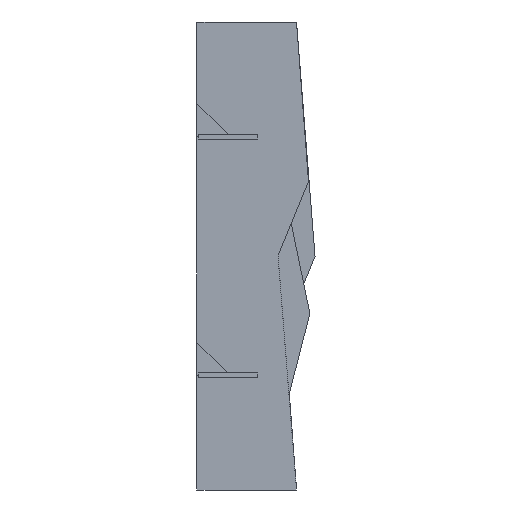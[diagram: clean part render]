
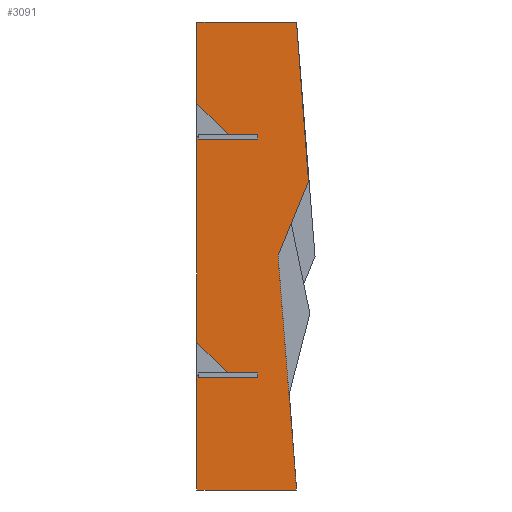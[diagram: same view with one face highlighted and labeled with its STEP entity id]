
A CAD part, left-side view. The second image highlights one B-rep face of the part: STEP entity #3091.
In plain terms, the highlighted planar face has unit normal (-1, 0, 0) as drawn and (0, 0, 1) by its records, which use the part's own axes.
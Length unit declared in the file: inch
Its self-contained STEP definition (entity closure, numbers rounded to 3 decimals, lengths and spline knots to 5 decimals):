
#171=FACE_OUTER_BOUND('',#334,.T.);
#334=EDGE_LOOP('',(#2518,#2519,#2520,#2521,#2522,#2523,#2524,#2525,#2526,
#2527,#2528,#2529,#2530,#2531,#2532,#2533,#2534,#2535,#2536,#2537));
#645=LINE('',#4718,#1074);
#667=LINE('',#4762,#1096);
#669=LINE('',#4765,#1098);
#670=LINE('',#4769,#1099);
#673=LINE('',#4774,#1102);
#675=LINE('',#4778,#1104);
#677=LINE('',#4783,#1106);
#680=LINE('',#4788,#1109);
#682=LINE('',#4791,#1111);
#683=LINE('',#4794,#1112);
#684=LINE('',#4795,#1113);
#685=LINE('',#4797,#1114);
#686=LINE('',#4799,#1115);
#687=LINE('',#4801,#1116);
#688=LINE('',#4803,#1117);
#689=LINE('',#4805,#1118);
#690=LINE('',#4807,#1119);
#691=LINE('',#4809,#1120);
#692=LINE('',#4811,#1121);
#693=LINE('',#4812,#1122);
#1074=VECTOR('',#3864,0.3937);
#1096=VECTOR('',#3890,0.3937);
#1098=VECTOR('',#3894,0.3937);
#1099=VECTOR('',#3897,0.3937);
#1102=VECTOR('',#3902,0.3937);
#1104=VECTOR('',#3906,0.3937);
#1106=VECTOR('',#3910,0.3937);
#1109=VECTOR('',#3915,0.3937);
#1111=VECTOR('',#3919,0.3937);
#1112=VECTOR('',#3922,0.3937);
#1113=VECTOR('',#3923,0.3937);
#1114=VECTOR('',#3924,0.3937);
#1115=VECTOR('',#3925,0.3937);
#1116=VECTOR('',#3926,0.3937);
#1117=VECTOR('',#3927,0.3937);
#1118=VECTOR('',#3928,0.3937);
#1119=VECTOR('',#3929,0.3937);
#1120=VECTOR('',#3930,0.3937);
#1121=VECTOR('',#3931,0.3937);
#1122=VECTOR('',#3932,0.3937);
#1421=VERTEX_POINT('',#4715);
#1422=VERTEX_POINT('',#4717);
#1441=VERTEX_POINT('',#4759);
#1442=VERTEX_POINT('',#4761);
#1443=VERTEX_POINT('',#4767);
#1444=VERTEX_POINT('',#4768);
#1445=VERTEX_POINT('',#4773);
#1446=VERTEX_POINT('',#4777);
#1447=VERTEX_POINT('',#4781);
#1448=VERTEX_POINT('',#4782);
#1449=VERTEX_POINT('',#4787);
#1450=VERTEX_POINT('',#4793);
#1451=VERTEX_POINT('',#4796);
#1452=VERTEX_POINT('',#4798);
#1453=VERTEX_POINT('',#4800);
#1454=VERTEX_POINT('',#4802);
#1455=VERTEX_POINT('',#4804);
#1456=VERTEX_POINT('',#4806);
#1457=VERTEX_POINT('',#4808);
#1458=VERTEX_POINT('',#4810);
#1789=EDGE_CURVE('',#1422,#1421,#645,.T.);
#1811=EDGE_CURVE('',#1442,#1441,#667,.T.);
#1813=EDGE_CURVE('',#1421,#1442,#669,.T.);
#1814=EDGE_CURVE('',#1443,#1444,#670,.T.);
#1817=EDGE_CURVE('',#1444,#1445,#673,.T.);
#1819=EDGE_CURVE('',#1445,#1446,#675,.T.);
#1821=EDGE_CURVE('',#1447,#1448,#677,.T.);
#1824=EDGE_CURVE('',#1448,#1449,#680,.T.);
#1826=EDGE_CURVE('',#1449,#1443,#682,.T.);
#1827=EDGE_CURVE('',#1441,#1450,#683,.T.);
#1828=EDGE_CURVE('',#1450,#1447,#684,.T.);
#1829=EDGE_CURVE('',#1446,#1451,#685,.T.);
#1830=EDGE_CURVE('',#1451,#1452,#686,.T.);
#1831=EDGE_CURVE('',#1452,#1453,#687,.T.);
#1832=EDGE_CURVE('',#1453,#1454,#688,.T.);
#1833=EDGE_CURVE('',#1454,#1455,#689,.T.);
#1834=EDGE_CURVE('',#1455,#1456,#690,.T.);
#1835=EDGE_CURVE('',#1456,#1457,#691,.T.);
#1836=EDGE_CURVE('',#1457,#1458,#692,.T.);
#1837=EDGE_CURVE('',#1458,#1422,#693,.T.);
#2518=ORIENTED_EDGE('',*,*,#1813,.T.);
#2519=ORIENTED_EDGE('',*,*,#1811,.T.);
#2520=ORIENTED_EDGE('',*,*,#1827,.T.);
#2521=ORIENTED_EDGE('',*,*,#1828,.T.);
#2522=ORIENTED_EDGE('',*,*,#1821,.T.);
#2523=ORIENTED_EDGE('',*,*,#1824,.T.);
#2524=ORIENTED_EDGE('',*,*,#1826,.T.);
#2525=ORIENTED_EDGE('',*,*,#1814,.T.);
#2526=ORIENTED_EDGE('',*,*,#1817,.T.);
#2527=ORIENTED_EDGE('',*,*,#1819,.T.);
#2528=ORIENTED_EDGE('',*,*,#1829,.T.);
#2529=ORIENTED_EDGE('',*,*,#1830,.T.);
#2530=ORIENTED_EDGE('',*,*,#1831,.T.);
#2531=ORIENTED_EDGE('',*,*,#1832,.T.);
#2532=ORIENTED_EDGE('',*,*,#1833,.T.);
#2533=ORIENTED_EDGE('',*,*,#1834,.T.);
#2534=ORIENTED_EDGE('',*,*,#1835,.T.);
#2535=ORIENTED_EDGE('',*,*,#1836,.T.);
#2536=ORIENTED_EDGE('',*,*,#1837,.T.);
#2537=ORIENTED_EDGE('',*,*,#1789,.T.);
#2928=PLANE('',#3354);
#3091=ADVANCED_FACE('',(#171),#2928,.T.);
#3354=AXIS2_PLACEMENT_3D('',#4792,#3920,#3921);
#3864=DIRECTION('',(0.997,0.079,0.));
#3890=DIRECTION('',(0.997,0.075,0.));
#3894=DIRECTION('',(0.926,-0.378,0.));
#3897=DIRECTION('',(0.,1.,0.));
#3902=DIRECTION('',(1.,0.,0.));
#3906=DIRECTION('',(0.,1.,0.));
#3910=DIRECTION('',(-0.703,-0.711,0.));
#3915=DIRECTION('',(0.,-1.,0.));
#3919=DIRECTION('',(-1.,0.,0.));
#3920=DIRECTION('center_axis',(0.,0.,1.));
#3921=DIRECTION('ref_axis',(1.,0.,0.));
#3922=DIRECTION('',(0.,1.,0.));
#3923=DIRECTION('',(-1.,0.,0.));
#3924=DIRECTION('',(-1.,0.,0.));
#3925=DIRECTION('',(-0.703,-0.711,0.));
#3926=DIRECTION('',(0.,-1.,0.));
#3927=DIRECTION('',(-1.,0.,0.));
#3928=DIRECTION('',(0.,1.,0.));
#3929=DIRECTION('',(1.,0.,0.));
#3930=DIRECTION('',(0.,1.,0.));
#3931=DIRECTION('',(-1.,0.,0.));
#3932=DIRECTION('',(0.,-1.,0.));
#4715=CARTESIAN_POINT('',(23.5,1.85878,0.48));
#4717=CARTESIAN_POINT('',(0.,0.,0.48));
#4718=CARTESIAN_POINT('',(23.62346,1.86854,0.48));
#4759=CARTESIAN_POINT('',(47.,0.,0.48));
#4761=CARTESIAN_POINT('',(31.00291,-1.20075,0.48));
#4762=CARTESIAN_POINT('',(31.00291,-1.20075,0.48));
#4765=CARTESIAN_POINT('',(23.5,1.85878,0.48));
#4767=CARTESIAN_POINT('',(35.25,4.375,0.48));
#4768=CARTESIAN_POINT('',(35.25,9.375,0.48));
#4769=CARTESIAN_POINT('',(35.25,7.1875,0.48));
#4773=CARTESIAN_POINT('',(35.495,9.375,0.48));
#4774=CARTESIAN_POINT('',(29.4975,9.375,0.48));
#4777=CARTESIAN_POINT('',(35.495,10.,0.48));
#4778=CARTESIAN_POINT('',(35.495,7.5,0.48));
#4781=CARTESIAN_POINT('',(38.8409,10.,0.48));
#4782=CARTESIAN_POINT('',(35.75,6.875,0.48));
#4783=CARTESIAN_POINT('',(32.25238,3.33879,0.48));
#4787=CARTESIAN_POINT('',(35.75,4.375,0.48));
#4788=CARTESIAN_POINT('',(35.75,4.6875,0.48));
#4791=CARTESIAN_POINT('',(29.375,4.375,0.48));
#4792=CARTESIAN_POINT('Origin',(23.5,5.,0.48));
#4793=CARTESIAN_POINT('',(47.,10.,0.48));
#4794=CARTESIAN_POINT('',(47.,0.,0.48));
#4795=CARTESIAN_POINT('',(47.,10.,0.48));
#4796=CARTESIAN_POINT('',(14.8409,10.,0.48));
#4797=CARTESIAN_POINT('',(47.,10.,0.48));
#4798=CARTESIAN_POINT('',(11.75,6.875,0.48));
#4799=CARTESIAN_POINT('',(14.18655,9.33843,0.48));
#4800=CARTESIAN_POINT('',(11.75,4.375,0.48));
#4801=CARTESIAN_POINT('',(11.75,4.6875,0.48));
#4802=CARTESIAN_POINT('',(11.25,4.375,0.48));
#4803=CARTESIAN_POINT('',(17.375,4.375,0.48));
#4804=CARTESIAN_POINT('',(11.25,9.375,0.48));
#4805=CARTESIAN_POINT('',(11.25,7.1875,0.48));
#4806=CARTESIAN_POINT('',(11.495,9.375,0.48));
#4807=CARTESIAN_POINT('',(17.4975,9.375,0.48));
#4808=CARTESIAN_POINT('',(11.495,10.,0.48));
#4809=CARTESIAN_POINT('',(11.495,7.5,0.48));
#4810=CARTESIAN_POINT('',(0.,10.,0.48));
#4811=CARTESIAN_POINT('',(47.,10.,0.48));
#4812=CARTESIAN_POINT('',(0.,10.,0.48));
